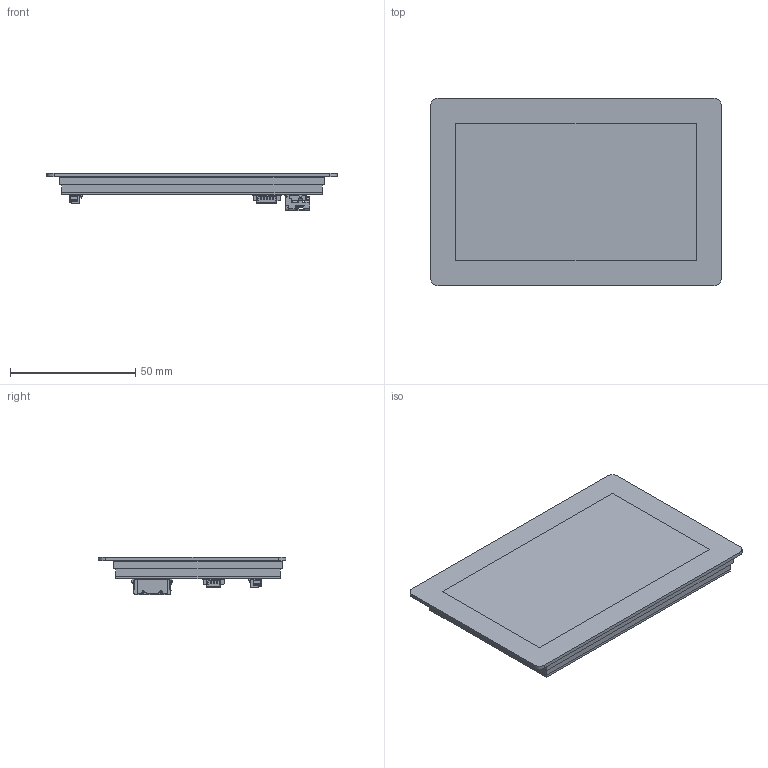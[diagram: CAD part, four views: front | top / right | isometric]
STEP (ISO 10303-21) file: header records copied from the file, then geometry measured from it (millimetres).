
FILE_DESCRIPTION (( 'STEP AP214' ), '1' );
FILE_NAME ('PDC043W-001 REV P1 STEP.STEP', '2025-10-28T20:35:24', ( '' ), ( '' ), 'SwSTEP 2.0', 'SolidWorks 2020', '' );
FILE_SCHEMA (( 'AUTOMOTIVE_DESIGN' ));
Length unit declared in the file: millimetre
Products named in the file (5): 10029449-111RLF; PDC043W-001 DISPLAY; PDC043W-001 REV P1 STEP; 532610571; 532610371
Assembly tree (4 placements, depth 2):
  PDC043W-001 REV P1 STEP
    PDC043W-001 DISPLAY
    532610371
    532610571
    10029449-111RLF
Bounding box: 116.04 x 74.85 x 14.86 mm (x, y, z)
Volume: 62230 mm3; surface area: 77581.8 mm2
Topology: 7 solids, 8 shells, 1971 faces, 5553 edges, 3571 vertices
Faces by surface type: plane 1632, cylinder 265, bspline 40, cone 34
Entity records: 63698 total; most frequent: CARTESIAN_POINT 13737, ORIENTED_EDGE 10982, DIRECTION 9322, EDGE_CURVE 5550, VECTOR 4352, LINE 4352, VERTEX_POINT 3571, AXIS2_PLACEMENT_3D 2485
